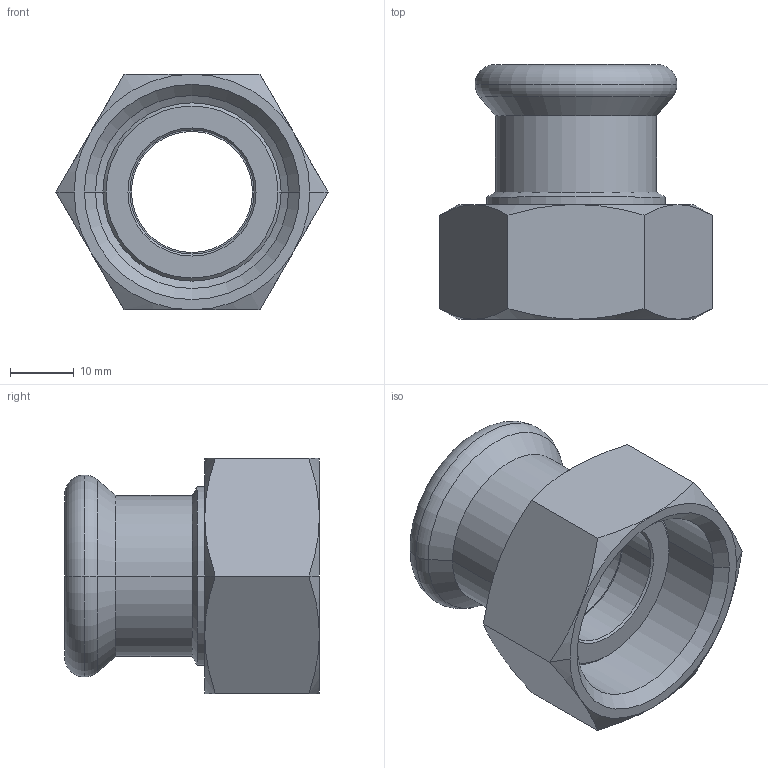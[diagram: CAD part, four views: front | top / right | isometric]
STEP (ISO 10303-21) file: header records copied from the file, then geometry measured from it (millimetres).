
FILE_DESCRIPTION(('CoCreate Modeling STEP Export'),'2;1');
FILE_NAME('C1446 22xG1.stp','2014-11-12T16:54:17',(''),(''),'CoCreate Modeling STEP processor for AP214 (Solid Model)','CoCreate Modeling 17.00A 17-Jun-2010 (C) Parametric Technology GmbH','');
FILE_SCHEMA(('AUTOMOTIVE_DESIGN { 1 0 10303 214 1 1 1 1 }'));
Length unit declared in the file: millimetre
Products named in the file (2): C1446_22xG1
Assembly tree (1 placements, depth 2):
  C1446_22xG1
    C1446_22xG1
Bounding box: 42.72 x 40 x 37 mm (x, y, z)
Volume: 14933.3 mm3; surface area: 10578.9 mm2
Topology: 1 solids, 2 shells, 74 faces, 166 edges, 100 vertices
Faces by surface type: cone 32, cylinder 20, plane 14, torus 8
Entity records: 2631 total; most frequent: CARTESIAN_POINT 1230, ORIENTED_EDGE 332, DIRECTION 204, EDGE_CURVE 166, VERTEX_POINT 100, EDGE_LOOP 82, AXIS2_PLACEMENT_3D 76, FACE_OUTER_BOUND 74
